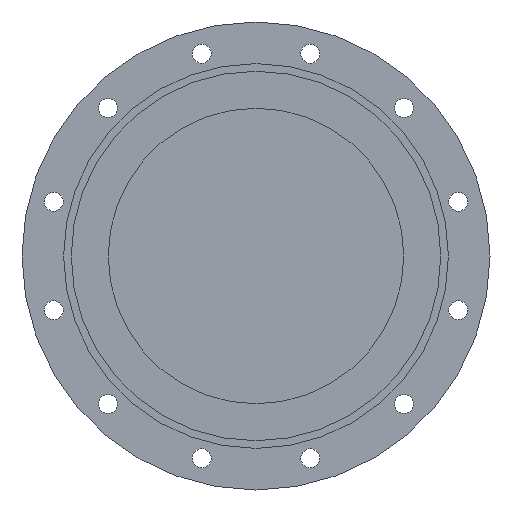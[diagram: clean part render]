
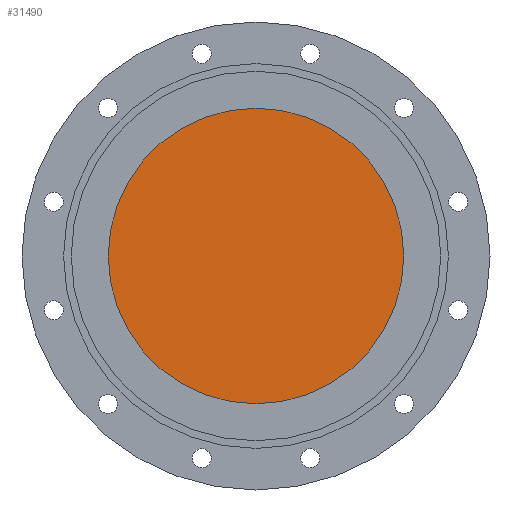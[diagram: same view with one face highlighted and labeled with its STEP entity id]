
A CAD part, left-side view. The second image highlights one B-rep face of the part: STEP entity #31490.
In plain terms, the highlighted planar face has unit normal (-1, 0, 0).
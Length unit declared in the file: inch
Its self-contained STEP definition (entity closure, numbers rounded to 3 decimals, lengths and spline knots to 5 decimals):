
#591 = VERTEX_POINT ( 'NONE', #31079 ) ;
#1370 = ORIENTED_EDGE ( 'NONE', *, *, #36033, .T. ) ;
#2694 = EDGE_LOOP ( 'NONE', ( #1370, #25525 ) ) ;
#3921 = DIRECTION ( 'NONE',  ( -1., 0., 0. ) ) ;
#8375 = VERTEX_POINT ( 'NONE', #15146 ) ;
#8749 = PLANE ( 'NONE',  #33016 ) ;
#9110 = DIRECTION ( 'NONE',  ( 0., 0., -1. ) ) ;
#9829 = CIRCLE ( 'NONE', #26170, 6. ) ;
#9915 = DIRECTION ( 'NONE',  ( 0., -1., 0. ) ) ;
#12632 = DIRECTION ( 'NONE',  ( -1., 0., 0. ) ) ;
#15146 = CARTESIAN_POINT ( 'NONE',  ( 0.19, -6., 0. ) ) ;
#21841 = CARTESIAN_POINT ( 'NONE',  ( 0.19, 0., 0. ) ) ;
#22125 = FACE_OUTER_BOUND ( 'NONE', #2694, .T. ) ;
#25525 = ORIENTED_EDGE ( 'NONE', *, *, #27306, .T. ) ;
#26170 = AXIS2_PLACEMENT_3D ( 'NONE', #30114, #12632, #27808 ) ;
#26244 = DIRECTION ( 'NONE',  ( -1., 0., 0. ) ) ;
#27306 = EDGE_CURVE ( 'Defeatured_0_320+Defeatured_0_321+Defeatured_0_321+Defeatured_0_321', #591, #8375, #9829, .T. ) ;
#27808 = DIRECTION ( 'NONE',  ( 0., -1., 0. ) ) ;
#29075 = CIRCLE ( 'NONE', #31562, 6. ) ;
#30114 = CARTESIAN_POINT ( 'NONE',  ( 0.19, 0., 0. ) ) ;
#31079 = CARTESIAN_POINT ( 'NONE',  ( 0.19, 6., 0. ) ) ;
#31490 = ADVANCED_FACE ( 'Defeatured_0_320', ( #22125 ), #8749, .T. ) ;
#31562 = AXIS2_PLACEMENT_3D ( 'NONE', #21841, #3921, #9915 ) ;
#32208 = CARTESIAN_POINT ( 'NONE',  ( 0.19, -6., 0. ) ) ;
#33016 = AXIS2_PLACEMENT_3D ( 'NONE', #32208, #26244, #9110 ) ;
#36033 = EDGE_CURVE ( 'Defeatured_0_320+Defeatured_0_321+Defeatured_0_321+Defeatured_0_321', #8375, #591, #29075, .T. ) ;
